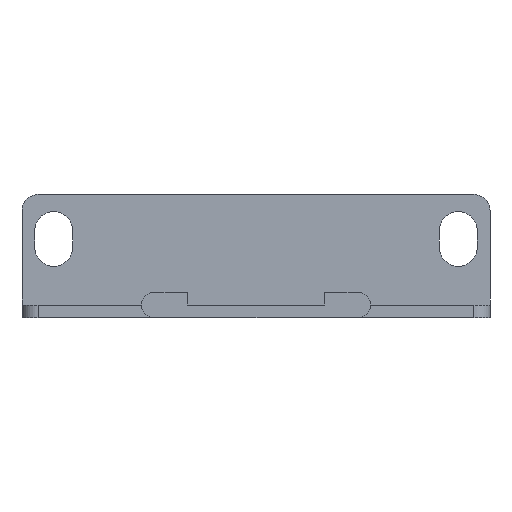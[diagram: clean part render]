
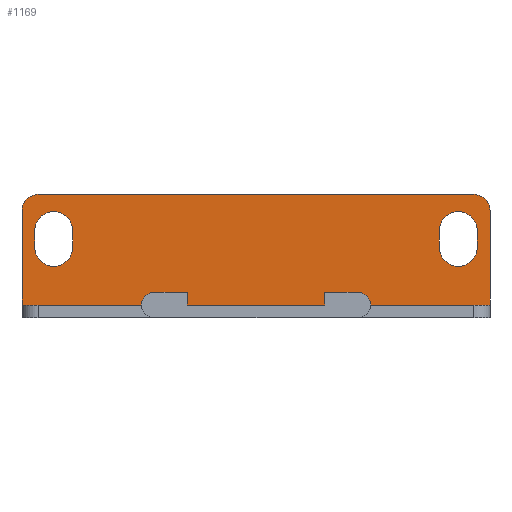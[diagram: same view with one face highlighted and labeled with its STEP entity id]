
A CAD part, left-side view. The second image highlights one B-rep face of the part: STEP entity #1169.
In plain terms, the highlighted planar face has unit normal (-1, 0, 0).
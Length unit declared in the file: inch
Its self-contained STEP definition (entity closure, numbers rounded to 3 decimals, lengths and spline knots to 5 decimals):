
#18=DIRECTION('',(0.,0.,1.));
#19=VECTOR('',#18,0.7);
#20=CARTESIAN_POINT('',(16.,0.,0.093));
#21=LINE('',#20,#19);
#35=CARTESIAN_POINT('',(16.,0.12,0.793));
#36=DIRECTION('',(-1.,0.,0.));
#37=DIRECTION('',(0.,-1.,0.));
#38=AXIS2_PLACEMENT_3D('',#35,#36,#37);
#40=DIRECTION('',(0.,1.,0.));
#41=VECTOR('',#40,3.23);
#42=CARTESIAN_POINT('',(16.,0.12,0.913));
#43=LINE('',#42,#41);
#48=CARTESIAN_POINT('',(16.,3.35,0.793));
#49=DIRECTION('',(-1.,0.,0.));
#50=DIRECTION('',(0.,0.,1.));
#51=AXIS2_PLACEMENT_3D('',#48,#49,#50);
#62=CARTESIAN_POINT('',(16.,0.235,0.5205));
#63=DIRECTION('',(-1.,0.,0.));
#64=DIRECTION('',(0.,1.,0.));
#65=AXIS2_PLACEMENT_3D('',#62,#63,#64);
#67=DIRECTION('',(0.,0.,1.));
#68=VECTOR('',#67,0.125);
#69=CARTESIAN_POINT('',(16.,0.0945,0.5205));
#70=LINE('',#69,#68);
#71=CARTESIAN_POINT('',(16.,0.235,0.6455));
#72=DIRECTION('',(-1.,0.,0.));
#73=DIRECTION('',(0.,-1.,0.));
#74=AXIS2_PLACEMENT_3D('',#71,#72,#73);
#76=DIRECTION('',(0.,0.,-1.));
#77=VECTOR('',#76,0.125);
#78=CARTESIAN_POINT('',(16.,0.3755,0.6455));
#79=LINE('',#78,#77);
#80=DIRECTION('',(0.,0.,1.));
#81=VECTOR('',#80,0.125);
#82=CARTESIAN_POINT('',(16.,3.0945,0.5205));
#83=LINE('',#82,#81);
#84=CARTESIAN_POINT('',(16.,3.235,0.6455));
#85=DIRECTION('',(-1.,0.,0.));
#86=DIRECTION('',(0.,-1.,0.));
#87=AXIS2_PLACEMENT_3D('',#84,#85,#86);
#89=DIRECTION('',(0.,0.,-1.));
#90=VECTOR('',#89,0.125);
#91=CARTESIAN_POINT('',(16.,3.3755,0.6455));
#92=LINE('',#91,#90);
#93=CARTESIAN_POINT('',(16.,3.235,0.5205));
#94=DIRECTION('',(-1.,0.,0.));
#95=DIRECTION('',(0.,1.,0.));
#96=AXIS2_PLACEMENT_3D('',#93,#94,#95);
#98=DIRECTION('',(0.,1.,0.));
#99=VECTOR('',#98,3.47);
#100=CARTESIAN_POINT('',(16.,0.,0.093));
#101=LINE('',#100,#99);
#174=DIRECTION('',(0.,0.,1.));
#175=VECTOR('',#174,0.7);
#176=CARTESIAN_POINT('',(16.,3.47,0.093));
#177=LINE('',#176,#175);
#815=CARTESIAN_POINT('',(16.,0.,0.093));
#816=CARTESIAN_POINT('',(16.,3.47,0.093));
#817=VERTEX_POINT('',#815);
#818=VERTEX_POINT('',#816);
#867=CARTESIAN_POINT('',(16.,0.3755,0.5205));
#868=CARTESIAN_POINT('',(16.,0.0945,0.5205));
#869=VERTEX_POINT('',#867);
#870=VERTEX_POINT('',#868);
#871=CARTESIAN_POINT('',(16.,0.0945,0.6455));
#872=VERTEX_POINT('',#871);
#873=CARTESIAN_POINT('',(16.,0.3755,0.6455));
#874=VERTEX_POINT('',#873);
#883=CARTESIAN_POINT('',(16.,3.0945,0.5205));
#884=CARTESIAN_POINT('',(16.,3.0945,0.6455));
#885=VERTEX_POINT('',#883);
#886=VERTEX_POINT('',#884);
#887=CARTESIAN_POINT('',(16.,3.3755,0.6455));
#888=VERTEX_POINT('',#887);
#889=CARTESIAN_POINT('',(16.,3.3755,0.5205));
#890=VERTEX_POINT('',#889);
#1027=CARTESIAN_POINT('',(16.,3.35,0.913));
#1029=VERTEX_POINT('',#1027);
#1031=CARTESIAN_POINT('',(16.,3.47,0.793));
#1032=VERTEX_POINT('',#1031);
#1036=CARTESIAN_POINT('',(16.,0.12,0.913));
#1038=VERTEX_POINT('',#1036);
#1041=CARTESIAN_POINT('',(16.,0.,0.793));
#1042=VERTEX_POINT('',#1041);
#1134=CARTESIAN_POINT('',(16.,0.,0.093));
#1135=DIRECTION('',(-1.,0.,0.));
#1136=DIRECTION('',(0.,0.,1.));
#1137=AXIS2_PLACEMENT_3D('',#1134,#1135,#1136);
#1138=PLANE('',#1137);
#1139=ORIENTED_EDGE('',*,*,#1125,.F.);
#1140=ORIENTED_EDGE('',*,*,#1114,.F.);
#1141=ORIENTED_EDGE('',*,*,#1099,.F.);
#1142=ORIENTED_EDGE('',*,*,#1084,.F.);
#1144=ORIENTED_EDGE('',*,*,#1143,.T.);
#1146=ORIENTED_EDGE('',*,*,#1145,.T.);
#1147=EDGE_LOOP('',(#1139,#1140,#1141,#1142,#1144,#1146));
#1148=FACE_OUTER_BOUND('',#1147,.F.);
#1150=ORIENTED_EDGE('',*,*,#1149,.T.);
#1152=ORIENTED_EDGE('',*,*,#1151,.T.);
#1154=ORIENTED_EDGE('',*,*,#1153,.T.);
#1156=ORIENTED_EDGE('',*,*,#1155,.T.);
#1157=EDGE_LOOP('',(#1150,#1152,#1154,#1156));
#1158=FACE_BOUND('',#1157,.F.);
#1160=ORIENTED_EDGE('',*,*,#1159,.T.);
#1162=ORIENTED_EDGE('',*,*,#1161,.T.);
#1164=ORIENTED_EDGE('',*,*,#1163,.T.);
#1166=ORIENTED_EDGE('',*,*,#1165,.T.);
#1167=EDGE_LOOP('',(#1160,#1162,#1164,#1166));
#1168=FACE_BOUND('',#1167,.F.);
#1169=ADVANCED_FACE('',(#1148,#1158,#1168),#1138,.T.);
#39=CIRCLE('',#38,0.12);
#52=CIRCLE('',#51,0.12);
#66=CIRCLE('',#65,0.1405);
#75=CIRCLE('',#74,0.1405);
#88=CIRCLE('',#87,0.1405);
#97=CIRCLE('',#96,0.1405);
#1084=EDGE_CURVE('',#817,#1042,#21,.T.);
#1099=EDGE_CURVE('',#1042,#1038,#39,.T.);
#1114=EDGE_CURVE('',#1038,#1029,#43,.T.);
#1125=EDGE_CURVE('',#1029,#1032,#52,.T.);
#1143=EDGE_CURVE('',#817,#818,#101,.T.);
#1145=EDGE_CURVE('',#818,#1032,#177,.T.);
#1149=EDGE_CURVE('',#885,#886,#83,.T.);
#1151=EDGE_CURVE('',#886,#888,#88,.T.);
#1153=EDGE_CURVE('',#888,#890,#92,.T.);
#1155=EDGE_CURVE('',#890,#885,#97,.T.);
#1159=EDGE_CURVE('',#869,#870,#66,.T.);
#1161=EDGE_CURVE('',#870,#872,#70,.T.);
#1163=EDGE_CURVE('',#872,#874,#75,.T.);
#1165=EDGE_CURVE('',#874,#869,#79,.T.);
